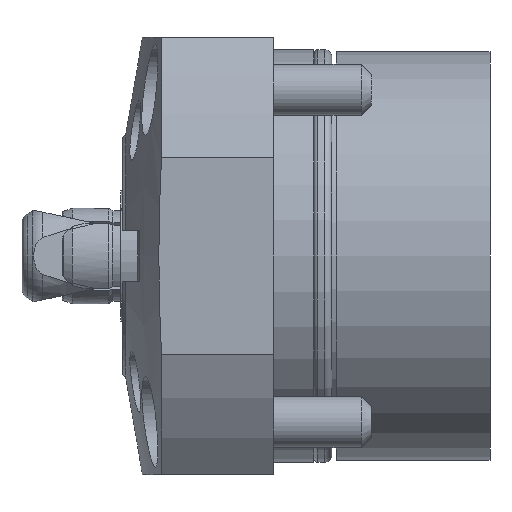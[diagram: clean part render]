
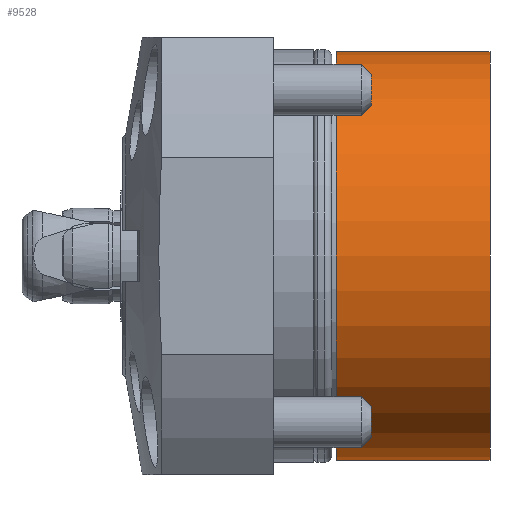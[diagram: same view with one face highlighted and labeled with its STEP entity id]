
A CAD part, left-side view. The second image highlights one B-rep face of the part: STEP entity #9528.
In plain terms, the highlighted cylindrical face has radius 20.3 mm (diameter 40.6 mm), a partial arc.
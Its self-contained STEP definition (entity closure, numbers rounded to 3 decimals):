
#86 = EDGE_CURVE ( 'NONE', #7963, #7967, #758, .T. ) ;
#106 = EDGE_CURVE ( 'NONE', #7967, #7958, #789, .T. ) ;
#758 = CIRCLE ( 'NONE', #765, 20.3 ) ;
#765 = AXIS2_PLACEMENT_3D ( 'NONE', #817, #816, #815 ) ;
#789 = LINE ( 'NONE', #849, #848 ) ;
#815 = DIRECTION ( 'NONE',  ( 0., 0., 1. ) ) ;
#816 = DIRECTION ( 'NONE',  ( 0., 1., 0. ) ) ;
#817 = CARTESIAN_POINT ( 'NONE',  ( 0., 0., 0. ) ) ;
#847 = DIRECTION ( 'NONE',  ( 0., 1., 0. ) ) ;
#848 = VECTOR ( 'NONE', #847, 1000. ) ;
#849 = CARTESIAN_POINT ( 'NONE',  ( 0., 33.82, 20.3 ) ) ;
#2018 = DIRECTION ( 'NONE',  ( 0., 0., 1. ) ) ;
#2019 = DIRECTION ( 'NONE',  ( 0., 1., 0. ) ) ;
#2020 = CARTESIAN_POINT ( 'NONE',  ( 0., 15.3, 0. ) ) ;
#2021 = AXIS2_PLACEMENT_3D ( 'NONE', #2020, #2019, #2018 ) ;
#2022 = CIRCLE ( 'NONE', #2021, 20.3 ) ;
#2533 = CARTESIAN_POINT ( 'NONE',  ( 0., 0., 20.3 ) ) ;
#2534 = CARTESIAN_POINT ( 'NONE',  ( 0., 0., -20.3 ) ) ;
#2536 = CARTESIAN_POINT ( 'NONE',  ( 0., 15.3, -20.3 ) ) ;
#2549 = CARTESIAN_POINT ( 'NONE',  ( 0., 15.3, 20.3 ) ) ;
#2573 = DIRECTION ( 'NONE',  ( 0., 1., 0. ) ) ;
#2574 = VECTOR ( 'NONE', #2573, 1000. ) ;
#2575 = CARTESIAN_POINT ( 'NONE',  ( 0., 33.82, -20.3 ) ) ;
#2579 = LINE ( 'NONE', #2575, #2574 ) ;
#5541 = CARTESIAN_POINT ( 'NONE',  ( 0., 33.82, 0. ) ) ;
#5588 = DIRECTION ( 'NONE',  ( 0., 0., 1. ) ) ;
#5589 = DIRECTION ( 'NONE',  ( 0., 1., 0. ) ) ;
#5590 = AXIS2_PLACEMENT_3D ( 'NONE', #5541, #5589, #5588 ) ;
#5593 = FACE_OUTER_BOUND ( 'NONE', #7138, .T. ) ;
#5595 = CYLINDRICAL_SURFACE ( 'NONE', #5590, 20.3 ) ;
#7138 = EDGE_LOOP ( 'NONE', ( #7312, #9521, #9519, #9520 ) ) ;
#7312 = ORIENTED_EDGE ( 'NONE', *, *, #7975, .F. ) ;
#7665 = EDGE_CURVE ( 'NONE', #7959, #7958, #2022, .T. ) ;
#7958 = VERTEX_POINT ( 'NONE', #2549 ) ;
#7959 = VERTEX_POINT ( 'NONE', #2536 ) ;
#7963 = VERTEX_POINT ( 'NONE', #2534 ) ;
#7967 = VERTEX_POINT ( 'NONE', #2533 ) ;
#7975 = EDGE_CURVE ( 'NONE', #7963, #7959, #2579, .T. ) ;
#9519 = ORIENTED_EDGE ( 'NONE', *, *, #106, .T. ) ;
#9520 = ORIENTED_EDGE ( 'NONE', *, *, #7665, .F. ) ;
#9521 = ORIENTED_EDGE ( 'NONE', *, *, #86, .T. ) ;
#9528 = ADVANCED_FACE ( 'NONE', ( #5593 ), #5595, .T. ) ;
